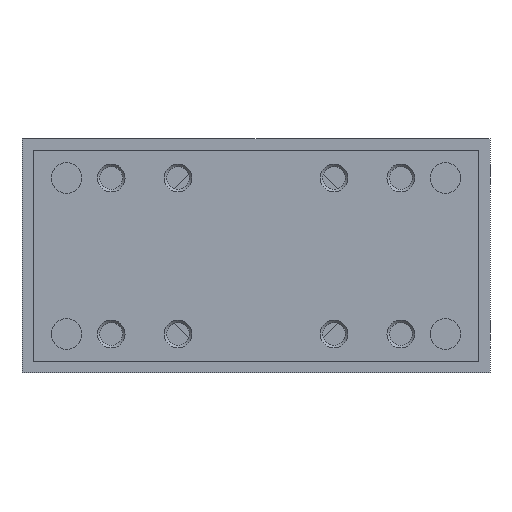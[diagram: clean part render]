
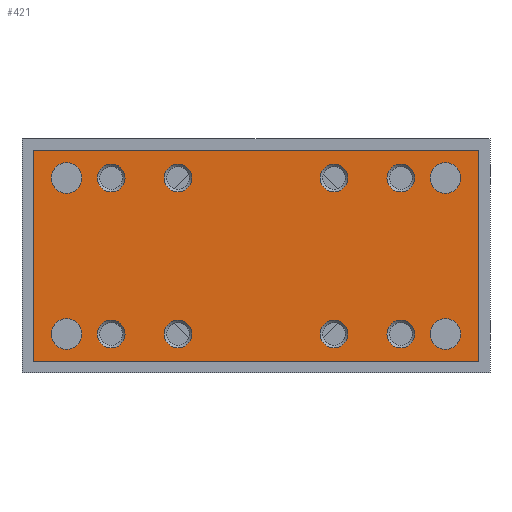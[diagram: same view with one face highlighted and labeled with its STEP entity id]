
A CAD part, left-side view. The second image highlights one B-rep face of the part: STEP entity #421.
In plain terms, the highlighted planar face has unit normal (-1, 0, 0).
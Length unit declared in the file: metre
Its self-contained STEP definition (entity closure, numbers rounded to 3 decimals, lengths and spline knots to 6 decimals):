
#421 = ADVANCED_FACE( '', ( #1007, #1008, #1009, #1010, #1011, #1012, #1013, #1014, #1015, #1016, #1017, #1018, #1019 ), #1020, .T. );
#1007 = FACE_BOUND( '', #1741, .T. );
#1008 = FACE_BOUND( '', #1742, .T. );
#1009 = FACE_BOUND( '', #1743, .T. );
#1010 = FACE_BOUND( '', #1744, .T. );
#1011 = FACE_BOUND( '', #1745, .T. );
#1012 = FACE_BOUND( '', #1746, .T. );
#1013 = FACE_BOUND( '', #1747, .T. );
#1014 = FACE_BOUND( '', #1748, .T. );
#1015 = FACE_BOUND( '', #1749, .T. );
#1016 = FACE_BOUND( '', #1750, .T. );
#1017 = FACE_BOUND( '', #1751, .T. );
#1018 = FACE_BOUND( '', #1752, .T. );
#1019 = FACE_OUTER_BOUND( '', #1753, .T. );
#1020 = PLANE( '', #1754 );
#1741 = EDGE_LOOP( '', ( #2772 ) );
#1742 = EDGE_LOOP( '', ( #2773 ) );
#1743 = EDGE_LOOP( '', ( #2774 ) );
#1744 = EDGE_LOOP( '', ( #2775 ) );
#1745 = EDGE_LOOP( '', ( #2776 ) );
#1746 = EDGE_LOOP( '', ( #2777 ) );
#1747 = EDGE_LOOP( '', ( #2778 ) );
#1748 = EDGE_LOOP( '', ( #2779 ) );
#1749 = EDGE_LOOP( '', ( #2780 ) );
#1750 = EDGE_LOOP( '', ( #2781 ) );
#1751 = EDGE_LOOP( '', ( #2782 ) );
#1752 = EDGE_LOOP( '', ( #2783 ) );
#1753 = EDGE_LOOP( '', ( #2784, #2785, #2786, #2787 ) );
#1754 = AXIS2_PLACEMENT_3D( '', #2788, #2789, #2790 );
#2772 = ORIENTED_EDGE( '', *, *, #3612, .F. );
#2773 = ORIENTED_EDGE( '', *, *, #3347, .F. );
#2774 = ORIENTED_EDGE( '', *, *, #3390, .F. );
#2775 = ORIENTED_EDGE( '', *, *, #3464, .F. );
#2776 = ORIENTED_EDGE( '', *, *, #3319, .T. );
#2777 = ORIENTED_EDGE( '', *, *, #3351, .F. );
#2778 = ORIENTED_EDGE( '', *, *, #3500, .F. );
#2779 = ORIENTED_EDGE( '', *, *, #3613, .T. );
#2780 = ORIENTED_EDGE( '', *, *, #3437, .T. );
#2781 = ORIENTED_EDGE( '', *, *, #3614, .F. );
#2782 = ORIENTED_EDGE( '', *, *, #3586, .F. );
#2783 = ORIENTED_EDGE( '', *, *, #3589, .T. );
#2784 = ORIENTED_EDGE( '', *, *, #3426, .T. );
#2785 = ORIENTED_EDGE( '', *, *, #3411, .T. );
#2786 = ORIENTED_EDGE( '', *, *, #3615, .T. );
#2787 = ORIENTED_EDGE( '', *, *, #3396, .T. );
#2788 = CARTESIAN_POINT( '', ( -0.062, -0.04, -0.002 ) );
#2789 = DIRECTION( '', ( -1., 0., 0. ) );
#2790 = DIRECTION( '', ( 0., -1., 0. ) );
#3319 = EDGE_CURVE( '', #3799, #3799, #3800, .T. );
#3347 = EDGE_CURVE( '', #3841, #3841, #3842, .T. );
#3351 = EDGE_CURVE( '', #3848, #3848, #3849, .T. );
#3390 = EDGE_CURVE( '', #3907, #3907, #3908, .T. );
#3396 = EDGE_CURVE( '', #3919, #3917, #3920, .T. );
#3411 = EDGE_CURVE( '', #3943, #3941, #3944, .T. );
#3426 = EDGE_CURVE( '', #3917, #3943, #3967, .T. );
#3437 = EDGE_CURVE( '', #3983, #3983, #3984, .T. );
#3464 = EDGE_CURVE( '', #4025, #4025, #4026, .T. );
#3500 = EDGE_CURVE( '', #4085, #4085, #4086, .T. );
#3586 = EDGE_CURVE( '', #4208, #4208, #4209, .T. );
#3589 = EDGE_CURVE( '', #4213, #4213, #4214, .T. );
#3612 = EDGE_CURVE( '', #4245, #4245, #4246, .T. );
#3613 = EDGE_CURVE( '', #4247, #4247, #4248, .T. );
#3614 = EDGE_CURVE( '', #4249, #4249, #4250, .T. );
#3615 = EDGE_CURVE( '', #3941, #3919, #4251, .T. );
#3799 = VERTEX_POINT( '', #4467 );
#3800 = CIRCLE( '', #4468, 0.0025 );
#3841 = VERTEX_POINT( '', #4538 );
#3842 = CIRCLE( '', #4539, 0.00275 );
#3848 = VERTEX_POINT( '', #4545 );
#3849 = CIRCLE( '', #4546, 0.0025 );
#3907 = VERTEX_POINT( '', #4717 );
#3908 = CIRCLE( '', #4718, 0.00275 );
#3917 = VERTEX_POINT( '', #4729 );
#3919 = VERTEX_POINT( '', #4732 );
#3920 = LINE( '', #4733, #4734 );
#3941 = VERTEX_POINT( '', #4758 );
#3943 = VERTEX_POINT( '', #4761 );
#3944 = LINE( '', #4762, #4763 );
#3967 = LINE( '', #4793, #4794 );
#3983 = VERTEX_POINT( '', #4810 );
#3984 = CIRCLE( '', #4811, 0.0025 );
#4025 = VERTEX_POINT( '', #4860 );
#4026 = CIRCLE( '', #4861, 0.00275 );
#4085 = VERTEX_POINT( '', #5221 );
#4086 = CIRCLE( '', #5222, 0.0025 );
#4208 = VERTEX_POINT( '', #5484 );
#4209 = CIRCLE( '', #5485, 0.0025 );
#4213 = VERTEX_POINT( '', #5489 );
#4214 = CIRCLE( '', #5490, 0.0025 );
#4245 = VERTEX_POINT( '', #5529 );
#4246 = CIRCLE( '', #5530, 0.00275 );
#4247 = VERTEX_POINT( '', #5531 );
#4248 = CIRCLE( '', #5532, 0.0025 );
#4249 = VERTEX_POINT( '', #5533 );
#4250 = CIRCLE( '', #5534, 0.0025 );
#4251 = LINE( '', #5535, #5536 );
#4467 = CARTESIAN_POINT( '', ( -0.062, -0.026, -0.0375 ) );
#4468 = AXIS2_PLACEMENT_3D( '', #6035, #6036, #6037 );
#4538 = CARTESIAN_POINT( '', ( -0.062, 0.03125, -0.035 ) );
#4539 = AXIS2_PLACEMENT_3D( '', #6080, #6081, #6082 );
#4545 = CARTESIAN_POINT( '', ( -0.062, 0.026, -0.0375 ) );
#4546 = AXIS2_PLACEMENT_3D( '', #6089, #6090, #6091 );
#4717 = CARTESIAN_POINT( '', ( -0.062, -0.03675, -0.007 ) );
#4718 = AXIS2_PLACEMENT_3D( '', #6145, #6146, #6147 );
#4729 = CARTESIAN_POINT( '', ( -0.062, -0.04, -0.04 ) );
#4732 = CARTESIAN_POINT( '', ( -0.062, 0.04, -0.04 ) );
#4733 = CARTESIAN_POINT( '', ( -0.062, 0.04, -0.04 ) );
#4734 = VECTOR( '', #6154, 1. );
#4758 = CARTESIAN_POINT( '', ( -0.062, 0.04, -0.002 ) );
#4761 = CARTESIAN_POINT( '', ( -0.062, -0.04, -0.002 ) );
#4762 = CARTESIAN_POINT( '', ( -0.062, -0.04, -0.002 ) );
#4763 = VECTOR( '', #6174, 1. );
#4793 = CARTESIAN_POINT( '', ( -0.062, -0.04, -0.04 ) );
#4794 = VECTOR( '', #6191, 1. );
#4810 = CARTESIAN_POINT( '', ( -0.062, -0.014, -0.0375 ) );
#4811 = AXIS2_PLACEMENT_3D( '', #6210, #6211, #6212 );
#4860 = CARTESIAN_POINT( '', ( -0.062, 0.03125, -0.007 ) );
#4861 = AXIS2_PLACEMENT_3D( '', #6260, #6261, #6262 );
#5221 = CARTESIAN_POINT( '', ( -0.062, -0.026, -0.0045 ) );
#5222 = AXIS2_PLACEMENT_3D( '', #6309, #6310, #6311 );
#5484 = CARTESIAN_POINT( '', ( -0.062, -0.014, -0.0045 ) );
#5485 = AXIS2_PLACEMENT_3D( '', #6406, #6407, #6408 );
#5489 = CARTESIAN_POINT( '', ( -0.062, 0.014, -0.0045 ) );
#5490 = AXIS2_PLACEMENT_3D( '', #6412, #6413, #6414 );
#5529 = CARTESIAN_POINT( '', ( -0.062, -0.03675, -0.035 ) );
#5530 = AXIS2_PLACEMENT_3D( '', #6435, #6436, #6437 );
#5531 = CARTESIAN_POINT( '', ( -0.062, 0.026, -0.0045 ) );
#5532 = AXIS2_PLACEMENT_3D( '', #6438, #6439, #6440 );
#5533 = CARTESIAN_POINT( '', ( -0.062, 0.014, -0.0375 ) );
#5534 = AXIS2_PLACEMENT_3D( '', #6441, #6442, #6443 );
#5535 = CARTESIAN_POINT( '', ( -0.062, 0.04, -0.002 ) );
#5536 = VECTOR( '', #6444, 1. );
#6035 = CARTESIAN_POINT( '', ( -0.062, -0.026, -0.035 ) );
#6036 = DIRECTION( '', ( 1., 0., 0. ) );
#6037 = DIRECTION( '', ( 0., 0., -1. ) );
#6080 = CARTESIAN_POINT( '', ( -0.062, 0.034, -0.035 ) );
#6081 = DIRECTION( '', ( -1., 0., 0. ) );
#6082 = DIRECTION( '', ( 0., -1., 0. ) );
#6089 = CARTESIAN_POINT( '', ( -0.062, 0.026, -0.035 ) );
#6090 = DIRECTION( '', ( -1., 0., 0. ) );
#6091 = DIRECTION( '', ( 0., 0., -1. ) );
#6145 = CARTESIAN_POINT( '', ( -0.062, -0.034, -0.007 ) );
#6146 = DIRECTION( '', ( -1., 0., 0. ) );
#6147 = DIRECTION( '', ( 0., -1., 0. ) );
#6154 = DIRECTION( '', ( 0., -1., 0. ) );
#6174 = DIRECTION( '', ( 0., 1., 0. ) );
#6191 = DIRECTION( '', ( 0., 0., 1. ) );
#6210 = CARTESIAN_POINT( '', ( -0.062, -0.014, -0.035 ) );
#6211 = DIRECTION( '', ( 1., 0., 0. ) );
#6212 = DIRECTION( '', ( 0., 0., -1. ) );
#6260 = CARTESIAN_POINT( '', ( -0.062, 0.034, -0.007 ) );
#6261 = DIRECTION( '', ( -1., 0., 0. ) );
#6262 = DIRECTION( '', ( 0., -1., 0. ) );
#6309 = CARTESIAN_POINT( '', ( -0.062, -0.026, -0.007 ) );
#6310 = DIRECTION( '', ( -1., 0., 0. ) );
#6311 = DIRECTION( '', ( 0., 0., 1. ) );
#6406 = CARTESIAN_POINT( '', ( -0.062, -0.014, -0.007 ) );
#6407 = DIRECTION( '', ( -1., 0., 0. ) );
#6408 = DIRECTION( '', ( 0., 0., 1. ) );
#6412 = CARTESIAN_POINT( '', ( -0.062, 0.014, -0.007 ) );
#6413 = DIRECTION( '', ( 1., 0., 0. ) );
#6414 = DIRECTION( '', ( 0., 0., 1. ) );
#6435 = CARTESIAN_POINT( '', ( -0.062, -0.034, -0.035 ) );
#6436 = DIRECTION( '', ( -1., 0., 0. ) );
#6437 = DIRECTION( '', ( 0., -1., 0. ) );
#6438 = CARTESIAN_POINT( '', ( -0.062, 0.026, -0.007 ) );
#6439 = DIRECTION( '', ( 1., 0., 0. ) );
#6440 = DIRECTION( '', ( 0., 0., 1. ) );
#6441 = CARTESIAN_POINT( '', ( -0.062, 0.014, -0.035 ) );
#6442 = DIRECTION( '', ( -1., 0., 0. ) );
#6443 = DIRECTION( '', ( 0., 0., -1. ) );
#6444 = DIRECTION( '', ( 0., 0., -1. ) );
